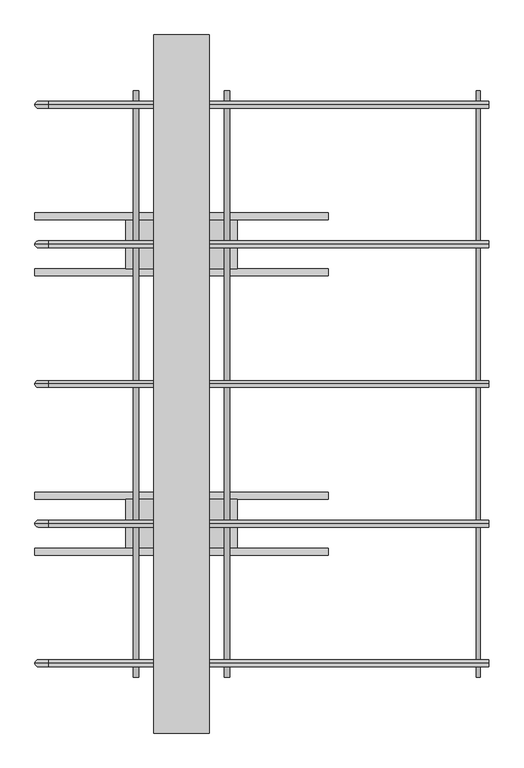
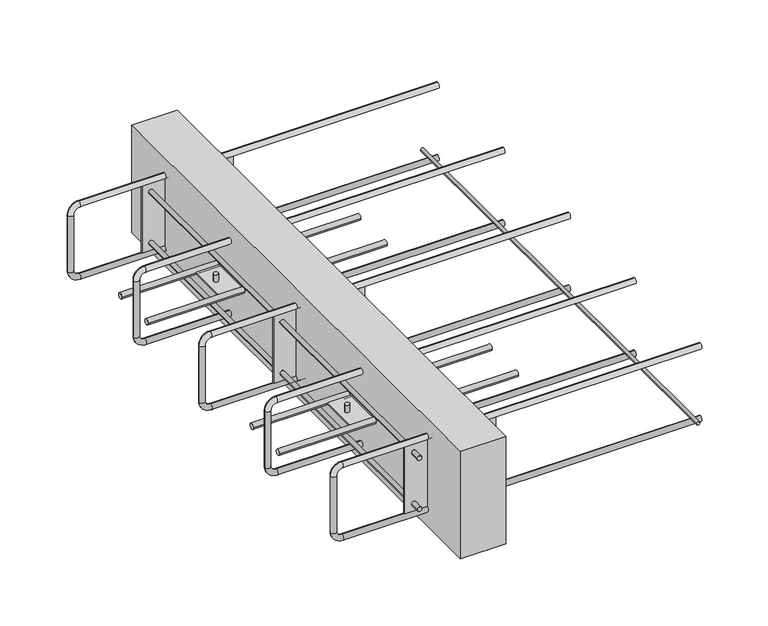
"""IFC4 building model written with IfcOpenShell, lengths in millimetres: fastener geometry, ACINOXplus_Typenreihe_Ux-Ox : UB+ S2."""

from ifc_helpers import new_model, si_unit, point, frame, frame_2d, origin, place, context, project, spatial, polyline, circle_curve, ellipse_curve, trimmed, segment, composite_curve, outline, extrude, source, transform, mapped, element, save
from ifc_brep_helpers import plane_surface, cylinder_surface, revolved_surface, advanced_brep


def fastener_1d2c38fd(model_context):
    return source(origin(), model_context, "Body", "SolidModel", [
        extrude(outline(composite_curve([segment(trimmed(circle_curve(frame_2d((-159.5, 425.0)), 3.0), [point((-159.5, 428.0))], [point((-159.5, 422.0))], False, "CARTESIAN"), True, "CONTINUOUS"), segment(trimmed(circle_curve(frame_2d((-159.5, 425.0)), 3.0), [point((-159.5, 422.0))], [point((-159.5, 428.0))], False, "CARTESIAN"), True, "CONTINUOUS")], self_intersect=False)), frame((0.0, -420.0, 0.0), z_axis=(0.0, 1.0, 0.0), x_axis=(0.0, 0.0, 1.0)), (0.0, 0.0, 1.0), 840.0),
        extrude(outline(composite_curve([segment(trimmed(circle_curve(frame_2d((-240.0, -100.0)), 5.0), [point((-245.0, -100.0))], [point((-235.0, -100.0))], False, "CARTESIAN"), True, "CONTINUOUS"), segment(trimmed(circle_curve(frame_2d((-240.0, -100.0)), 5.0), [point((-235.0, -100.0))], [point((-245.0, -100.0))], False, "CARTESIAN"), True, "CONTINUOUS")], self_intersect=False)), frame((-210.0, 0.0, 0.0), z_axis=(1.0, 0.0, 0.0), x_axis=(0.0, 1.0, 0.0)), (0.0, 0.0, 1.0), 420.0),
        extrude(outline(composite_curve([segment(trimmed(circle_curve(frame_2d((-160.0, -100.0)), 5.0), [point((-165.0, -100.0))], [point((-155.0, -100.0))], False, "CARTESIAN"), True, "CONTINUOUS"), segment(trimmed(circle_curve(frame_2d((-160.0, -100.0)), 5.0), [point((-155.0, -100.0))], [point((-165.0, -100.0))], False, "CARTESIAN"), True, "CONTINUOUS")], self_intersect=False)), frame((-210.0, 0.0, 0.0), z_axis=(1.0, 0.0, 0.0), x_axis=(0.0, 1.0, 0.0)), (0.0, 0.0, 1.0), 420.0),
        extrude(outline(composite_curve([segment(trimmed(circle_curve(frame_2d((-65.0, -200.0)), 4.0), [point((-61.0, -200.0))], [point((-69.0, -200.0))], False, "CARTESIAN"), True, "CONTINUOUS"), segment(trimmed(circle_curve(frame_2d((-65.0, -200.0)), 4.0), [point((-69.0, -200.0))], [point((-61.0, -200.0))], False, "CARTESIAN"), True, "CONTINUOUS")], self_intersect=False)), frame((0.0, 0.0, -98.5), z_axis=(0.0, 0.0, 1.0), x_axis=(1.0, 0.0, 0.0)), (0.0, 0.0, 1.0), 13.5),
        extrude(outline(composite_curve([segment(trimmed(circle_curve(frame_2d((65.0, -200.0)), 4.0), [point((69.0, -200.0))], [point((61.0, -200.0))], False, "CARTESIAN"), True, "CONTINUOUS"), segment(trimmed(circle_curve(frame_2d((65.0, -200.0)), 4.0), [point((61.0, -200.0))], [point((69.0, -200.0))], False, "CARTESIAN"), True, "CONTINUOUS")], self_intersect=False)), frame((0.0, 0.0, -98.5), z_axis=(0.0, 0.0, 1.0), x_axis=(1.0, 0.0, 0.0)), (0.0, 0.0, 1.0), 13.5),
        extrude(outline(composite_curve([segment(trimmed(circle_curve(frame_2d((-65.0, -200.0)), 4.0), [point((-69.0, -200.0))], [point((-61.0, -200.0))], False, "CARTESIAN"), True, "CONTINUOUS"), segment(trimmed(circle_curve(frame_2d((-65.0, -200.0)), 4.0), [point((-61.0, -200.0))], [point((-69.0, -200.0))], False, "CARTESIAN"), True, "CONTINUOUS")], self_intersect=False)), frame((0.0, 0.0, -115.0), z_axis=(0.0, 0.0, 1.0), x_axis=(1.0, 0.0, 0.0)), (0.0, 0.0, 1.0), 13.5),
        extrude(outline(composite_curve([segment(trimmed(circle_curve(frame_2d((65.0, -200.0)), 4.0), [point((61.0, -200.0))], [point((69.0, -200.0))], False, "CARTESIAN"), True, "CONTINUOUS"), segment(trimmed(circle_curve(frame_2d((65.0, -200.0)), 4.0), [point((69.0, -200.0))], [point((61.0, -200.0))], False, "CARTESIAN"), True, "CONTINUOUS")], self_intersect=False)), frame((0.0, 0.0, -115.0), z_axis=(0.0, 0.0, 1.0), x_axis=(1.0, 0.0, 0.0)), (0.0, 0.0, 1.0), 13.5),
        extrude(outline(polyline([(80.0, -165.0), (80.0, -235.0), (-80.0, -235.0), (-80.0, -165.0), (80.0, -165.0)])), frame((0.0, 0.0, -101.5), z_axis=(0.0, 0.0, 1.0), x_axis=(1.0, 0.0, 0.0)), (0.0, 0.0, 1.0), 3.0),
        extrude(outline(composite_curve([segment(trimmed(circle_curve(frame_2d((160.0, -100.0)), 5.0), [point((155.0, -100.0))], [point((165.0, -100.0))], False, "CARTESIAN"), True, "CONTINUOUS"), segment(trimmed(circle_curve(frame_2d((160.0, -100.0)), 5.0), [point((165.0, -100.0))], [point((155.0, -100.0))], False, "CARTESIAN"), True, "CONTINUOUS")], self_intersect=False)), frame((-210.0, 0.0, 0.0), z_axis=(1.0, 0.0, 0.0), x_axis=(0.0, 1.0, 0.0)), (0.0, 0.0, 1.0), 420.0),
        extrude(outline(composite_curve([segment(trimmed(circle_curve(frame_2d((240.0, -100.0)), 5.0), [point((235.0, -100.0))], [point((245.0, -100.0))], False, "CARTESIAN"), True, "CONTINUOUS"), segment(trimmed(circle_curve(frame_2d((240.0, -100.0)), 5.0), [point((245.0, -100.0))], [point((235.0, -100.0))], False, "CARTESIAN"), True, "CONTINUOUS")], self_intersect=False)), frame((-210.0, 0.0, 0.0), z_axis=(1.0, 0.0, 0.0), x_axis=(0.0, 1.0, 0.0)), (0.0, 0.0, 1.0), 420.0),
        extrude(outline(composite_curve([segment(trimmed(circle_curve(frame_2d((-65.0, 200.0)), 4.0), [point((-61.0, 200.0))], [point((-69.0, 200.0))], False, "CARTESIAN"), True, "CONTINUOUS"), segment(trimmed(circle_curve(frame_2d((-65.0, 200.0)), 4.0), [point((-69.0, 200.0))], [point((-61.0, 200.0))], False, "CARTESIAN"), True, "CONTINUOUS")], self_intersect=False)), frame((0.0, 0.0, -98.5), z_axis=(0.0, 0.0, 1.0), x_axis=(1.0, 0.0, 0.0)), (0.0, 0.0, 1.0), 13.5),
        extrude(outline(composite_curve([segment(trimmed(circle_curve(frame_2d((65.0, 200.0)), 4.0), [point((69.0, 200.0))], [point((61.0, 200.0))], False, "CARTESIAN"), True, "CONTINUOUS"), segment(trimmed(circle_curve(frame_2d((65.0, 200.0)), 4.0), [point((61.0, 200.0))], [point((69.0, 200.0))], False, "CARTESIAN"), True, "CONTINUOUS")], self_intersect=False)), frame((0.0, 0.0, -98.5), z_axis=(0.0, 0.0, 1.0), x_axis=(1.0, 0.0, 0.0)), (0.0, 0.0, 1.0), 13.5),
        extrude(outline(composite_curve([segment(trimmed(circle_curve(frame_2d((-65.0, 200.0)), 4.0), [point((-69.0, 200.0))], [point((-61.0, 200.0))], False, "CARTESIAN"), True, "CONTINUOUS"), segment(trimmed(circle_curve(frame_2d((-65.0, 200.0)), 4.0), [point((-61.0, 200.0))], [point((-69.0, 200.0))], False, "CARTESIAN"), True, "CONTINUOUS")], self_intersect=False)), frame((0.0, 0.0, -115.0), z_axis=(0.0, 0.0, 1.0), x_axis=(1.0, 0.0, 0.0)), (0.0, 0.0, 1.0), 13.5),
        extrude(outline(composite_curve([segment(trimmed(circle_curve(frame_2d((65.0, 200.0)), 4.0), [point((61.0, 200.0))], [point((69.0, 200.0))], False, "CARTESIAN"), True, "CONTINUOUS"), segment(trimmed(circle_curve(frame_2d((65.0, 200.0)), 4.0), [point((69.0, 200.0))], [point((61.0, 200.0))], False, "CARTESIAN"), True, "CONTINUOUS")], self_intersect=False)), frame((0.0, 0.0, -115.0), z_axis=(0.0, 0.0, 1.0), x_axis=(1.0, 0.0, 0.0)), (0.0, 0.0, 1.0), 13.5),
        extrude(outline(polyline([(80.0, 235.0), (80.0, 165.0), (-80.0, 165.0), (-80.0, 235.0), (80.0, 235.0)])), frame((0.0, 0.0, -101.5), z_axis=(0.0, 0.0, 1.0), x_axis=(1.0, 0.0, 0.0)), (0.0, 0.0, 1.0), 3.0),
        extrude(outline(polyline([(40.0, 500.0), (40.0, -500.0), (-40.0, -500.0), (-40.0, 500.0), (40.0, 500.0)])), frame((0.0, 0.0, -200.0), z_axis=(0.0, 0.0, 1.0), x_axis=(1.0, 0.0, 0.0)), (0.0, 0.0, 1.0), 200.0),
        extrude(outline(polyline([(80.0, 1.5), (80.0, -1.5), (-80.0, -1.5), (-80.0, 1.5), (80.0, 1.5)])), frame((0.0, 0.0, -162.5), z_axis=(0.0, 0.0, 1.0), x_axis=(1.0, 0.0, 0.0)), (0.0, 0.0, 1.0), 125.0),
        extrude(outline(polyline([(80.0, -398.5), (80.0, -401.5), (-80.0, -401.5), (-80.0, -398.5), (80.0, -398.5)])), frame((0.0, 0.0, -162.5), z_axis=(0.0, 0.0, 1.0), x_axis=(1.0, 0.0, 0.0)), (0.0, 0.0, 1.0), 125.0),
        extrude(outline(polyline([(80.0, 401.5), (80.0, 398.5), (-80.0, 398.5), (-80.0, 401.5), (80.0, 401.5)])), frame((0.0, 0.0, -162.5), z_axis=(0.0, 0.0, 1.0), x_axis=(1.0, 0.0, 0.0)), (0.0, 0.0, 1.0), 125.0),
        extrude(outline(composite_curve([segment(trimmed(circle_curve(frame_2d((-147.5, -65.0)), 4.0), [point((-147.5, -61.0))], [point((-147.5, -69.0))], False, "CARTESIAN"), True, "CONTINUOUS"), segment(trimmed(circle_curve(frame_2d((-147.5, -65.0)), 4.0), [point((-147.5, -69.0))], [point((-147.5, -61.0))], False, "CARTESIAN"), True, "CONTINUOUS")], self_intersect=False)), frame((0.0, -420.0, 0.0), z_axis=(0.0, 1.0, 0.0), x_axis=(0.0, 0.0, 1.0)), (0.0, 0.0, 1.0), 18.5),
        extrude(outline(composite_curve([segment(trimmed(circle_curve(frame_2d((-147.5, -65.0)), 4.0), [point((-147.5, -69.0))], [point((-147.5, -61.0))], False, "CARTESIAN"), True, "CONTINUOUS"), segment(trimmed(circle_curve(frame_2d((-147.5, -65.0)), 4.0), [point((-147.5, -61.0))], [point((-147.5, -69.0))], False, "CARTESIAN"), True, "CONTINUOUS")], self_intersect=False)), frame((0.0, -398.5, 0.0), z_axis=(0.0, 1.0, 0.0), x_axis=(0.0, 0.0, 1.0)), (0.0, 0.0, 1.0), 397.0),
        extrude(outline(composite_curve([segment(trimmed(circle_curve(frame_2d((-147.5, -65.0)), 4.0), [point((-147.5, -69.0))], [point((-147.5, -61.0))], False, "CARTESIAN"), True, "CONTINUOUS"), segment(trimmed(circle_curve(frame_2d((-147.5, -65.0)), 4.0), [point((-147.5, -61.0))], [point((-147.5, -69.0))], False, "CARTESIAN"), True, "CONTINUOUS")], self_intersect=False)), frame((0.0, 401.5, 0.0), z_axis=(0.0, 1.0, 0.0), x_axis=(0.0, 0.0, 1.0)), (0.0, 0.0, 1.0), 18.5),
        extrude(outline(composite_curve([segment(trimmed(circle_curve(frame_2d((-147.5, -65.0)), 4.0), [point((-147.5, -69.0))], [point((-147.5, -61.0))], False, "CARTESIAN"), True, "CONTINUOUS"), segment(trimmed(circle_curve(frame_2d((-147.5, -65.0)), 4.0), [point((-147.5, -61.0))], [point((-147.5, -69.0))], False, "CARTESIAN"), True, "CONTINUOUS")], self_intersect=False)), frame((0.0, 1.5, 0.0), z_axis=(0.0, 1.0, 0.0), x_axis=(0.0, 0.0, 1.0)), (0.0, 0.0, 1.0), 397.0),
        extrude(outline(composite_curve([segment(trimmed(circle_curve(frame_2d((-147.5, 65.0)), 4.0), [point((-147.5, 69.0))], [point((-147.5, 61.0))], False, "CARTESIAN"), True, "CONTINUOUS"), segment(trimmed(circle_curve(frame_2d((-147.5, 65.0)), 4.0), [point((-147.5, 61.0))], [point((-147.5, 69.0))], False, "CARTESIAN"), True, "CONTINUOUS")], self_intersect=False)), frame((0.0, -420.0, 0.0), z_axis=(0.0, 1.0, 0.0), x_axis=(0.0, 0.0, 1.0)), (0.0, 0.0, 1.0), 18.5),
        extrude(outline(composite_curve([segment(trimmed(circle_curve(frame_2d((-147.5, 65.0)), 4.0), [point((-147.5, 61.0))], [point((-147.5, 69.0))], False, "CARTESIAN"), True, "CONTINUOUS"), segment(trimmed(circle_curve(frame_2d((-147.5, 65.0)), 4.0), [point((-147.5, 69.0))], [point((-147.5, 61.0))], False, "CARTESIAN"), True, "CONTINUOUS")], self_intersect=False)), frame((0.0, -398.5, 0.0), z_axis=(0.0, 1.0, 0.0), x_axis=(0.0, 0.0, 1.0)), (0.0, 0.0, 1.0), 397.0),
        extrude(outline(composite_curve([segment(trimmed(circle_curve(frame_2d((-147.5, 65.0)), 4.0), [point((-147.5, 61.0))], [point((-147.5, 69.0))], False, "CARTESIAN"), True, "CONTINUOUS"), segment(trimmed(circle_curve(frame_2d((-147.5, 65.0)), 4.0), [point((-147.5, 69.0))], [point((-147.5, 61.0))], False, "CARTESIAN"), True, "CONTINUOUS")], self_intersect=False)), frame((0.0, 401.5, 0.0), z_axis=(0.0, 1.0, 0.0), x_axis=(0.0, 0.0, 1.0)), (0.0, 0.0, 1.0), 18.5),
        extrude(outline(composite_curve([segment(trimmed(circle_curve(frame_2d((-147.5, 65.0)), 4.0), [point((-147.5, 61.0))], [point((-147.5, 69.0))], False, "CARTESIAN"), True, "CONTINUOUS"), segment(trimmed(circle_curve(frame_2d((-147.5, 65.0)), 4.0), [point((-147.5, 69.0))], [point((-147.5, 61.0))], False, "CARTESIAN"), True, "CONTINUOUS")], self_intersect=False)), frame((0.0, 1.5, 0.0), z_axis=(0.0, 1.0, 0.0), x_axis=(0.0, 0.0, 1.0)), (0.0, 0.0, 1.0), 397.0),
        extrude(outline(composite_curve([segment(trimmed(circle_curve(frame_2d((-52.5, -65.0)), 4.0), [point((-52.5, -69.0))], [point((-52.5, -61.0))], False, "CARTESIAN"), True, "CONTINUOUS"), segment(trimmed(circle_curve(frame_2d((-52.5, -65.0)), 4.0), [point((-52.5, -61.0))], [point((-52.5, -69.0))], False, "CARTESIAN"), True, "CONTINUOUS")], self_intersect=False)), frame((0.0, 401.5, 0.0), z_axis=(0.0, 1.0, 0.0), x_axis=(0.0, 0.0, 1.0)), (0.0, 0.0, 1.0), 18.5),
        extrude(outline(composite_curve([segment(trimmed(circle_curve(frame_2d((-52.5, -65.0)), 4.0), [point((-52.5, -61.0))], [point((-52.5, -69.0))], False, "CARTESIAN"), True, "CONTINUOUS"), segment(trimmed(circle_curve(frame_2d((-52.5, -65.0)), 4.0), [point((-52.5, -69.0))], [point((-52.5, -61.0))], False, "CARTESIAN"), True, "CONTINUOUS")], self_intersect=False)), frame((0.0, -420.0, 0.0), z_axis=(0.0, 1.0, 0.0), x_axis=(0.0, 0.0, 1.0)), (0.0, 0.0, 1.0), 18.5),
        extrude(outline(composite_curve([segment(trimmed(circle_curve(frame_2d((-52.5, -65.0)), 4.0), [point((-52.5, -69.0))], [point((-52.5, -61.0))], False, "CARTESIAN"), True, "CONTINUOUS"), segment(trimmed(circle_curve(frame_2d((-52.5, -65.0)), 4.0), [point((-52.5, -61.0))], [point((-52.5, -69.0))], False, "CARTESIAN"), True, "CONTINUOUS")], self_intersect=False)), frame((0.0, -398.5, 0.0), z_axis=(0.0, 1.0, 0.0), x_axis=(0.0, 0.0, 1.0)), (0.0, 0.0, 1.0), 397.0),
        extrude(outline(composite_curve([segment(trimmed(circle_curve(frame_2d((-52.5, -65.0)), 4.0), [point((-52.5, -69.0))], [point((-52.5, -61.0))], False, "CARTESIAN"), True, "CONTINUOUS"), segment(trimmed(circle_curve(frame_2d((-52.5, -65.0)), 4.0), [point((-52.5, -61.0))], [point((-52.5, -69.0))], False, "CARTESIAN"), True, "CONTINUOUS")], self_intersect=False)), frame((0.0, 1.5, 0.0), z_axis=(0.0, 1.0, 0.0), x_axis=(0.0, 0.0, 1.0)), (0.0, 0.0, 1.0), 397.0),
        extrude(outline(composite_curve([segment(trimmed(circle_curve(frame_2d((-52.5, 65.0)), 4.0), [point((-52.5, 61.0))], [point((-52.5, 69.0))], False, "CARTESIAN"), True, "CONTINUOUS"), segment(trimmed(circle_curve(frame_2d((-52.5, 65.0)), 4.0), [point((-52.5, 69.0))], [point((-52.5, 61.0))], False, "CARTESIAN"), True, "CONTINUOUS")], self_intersect=False)), frame((0.0, 401.5, 0.0), z_axis=(0.0, 1.0, 0.0), x_axis=(0.0, 0.0, 1.0)), (0.0, 0.0, 1.0), 18.5),
        extrude(outline(composite_curve([segment(trimmed(circle_curve(frame_2d((-52.5, 65.0)), 4.0), [point((-52.5, 69.0))], [point((-52.5, 61.0))], False, "CARTESIAN"), True, "CONTINUOUS"), segment(trimmed(circle_curve(frame_2d((-52.5, 65.0)), 4.0), [point((-52.5, 61.0))], [point((-52.5, 69.0))], False, "CARTESIAN"), True, "CONTINUOUS")], self_intersect=False)), frame((0.0, -420.0, 0.0), z_axis=(0.0, 1.0, 0.0), x_axis=(0.0, 0.0, 1.0)), (0.0, 0.0, 1.0), 18.5),
        extrude(outline(composite_curve([segment(trimmed(circle_curve(frame_2d((-52.5, 65.0)), 4.0), [point((-52.5, 61.0))], [point((-52.5, 69.0))], False, "CARTESIAN"), True, "CONTINUOUS"), segment(trimmed(circle_curve(frame_2d((-52.5, 65.0)), 4.0), [point((-52.5, 69.0))], [point((-52.5, 61.0))], False, "CARTESIAN"), True, "CONTINUOUS")], self_intersect=False)), frame((0.0, -398.5, 0.0), z_axis=(0.0, 1.0, 0.0), x_axis=(0.0, 0.0, 1.0)), (0.0, 0.0, 1.0), 397.0),
        extrude(outline(composite_curve([segment(trimmed(circle_curve(frame_2d((-52.5, 65.0)), 4.0), [point((-52.5, 61.0))], [point((-52.5, 69.0))], False, "CARTESIAN"), True, "CONTINUOUS"), segment(trimmed(circle_curve(frame_2d((-52.5, 65.0)), 4.0), [point((-52.5, 69.0))], [point((-52.5, 61.0))], False, "CARTESIAN"), True, "CONTINUOUS")], self_intersect=False)), frame((0.0, 1.5, 0.0), z_axis=(0.0, 1.0, 0.0), x_axis=(0.0, 0.0, 1.0)), (0.0, 0.0, 1.0), 397.0),
        advanced_brep(
        [(440.0, 200.0, -27.5), (440.0, 200.0, -37.5), (-190.0, 200.0, -27.5), (-190.0, 200.0, -37.5), (-200.0, 200.0, -47.5), (-210.0, 200.0, -47.5), (-210.0, 200.0, -152.5), (-200.0, 200.0, -152.5), (-190.0, 200.0, -162.5), (-190.0, 200.0, -172.5), (440.0, 200.0, -172.5), (440.0, 200.0, -162.5)],
        [
            (0, 1, circle_curve(frame((440.0, 200.0, -32.5), z_axis=(1.0, 0.0, 0.0), x_axis=(0.0, 0.0, -1.0)), 5.0)),
            (1, 0, circle_curve(frame((440.0, 200.0, -32.5), z_axis=(1.0, 0.0, 0.0), x_axis=(0.0, 0.0, -1.0)), 5.0)),
            (0, 2),
            (2, 3, circle_curve(frame((-190.0, 200.0, -32.5), z_axis=(1.0, 0.0, 0.0), x_axis=(0.0, 0.0, -1.0)), 5.0)),
            (3, 1),
            (3, 2, circle_curve(frame((-190.0, 200.0, -32.5), z_axis=(1.0, 0.0, 0.0), x_axis=(0.0, 0.0, -1.0)), 5.0)),
            (4, 3, circle_curve(frame((-190.0, 200.0, -47.5), z_axis=(0.0, 1.0, 0.0), x_axis=(0.0, 0.0, 1.0)), 10.0)),
            (2, 5, circle_curve(frame((-190.0, 200.0, -47.5), z_axis=(0.0, -1.0, 0.0), x_axis=(0.0, 0.0, 1.0)), 20.0)),
            (5, 4, circle_curve(frame((-205.0, 200.0, -47.5), z_axis=(0.0, 0.0, 1.0), x_axis=(1.0, 0.0, 0.0)), 5.0)),
            (4, 5, circle_curve(frame((-205.0, 200.0, -47.5), z_axis=(0.0, 0.0, 1.0), x_axis=(1.0, 0.0, 0.0)), 5.0)),
            (5, 6),
            (6, 7, circle_curve(frame((-205.0, 200.0, -152.5), z_axis=(0.0, 0.0, 1.0), x_axis=(1.0, 0.0, 0.0)), 5.0)),
            (7, 4),
            (7, 6, circle_curve(frame((-205.0, 200.0, -152.5), z_axis=(0.0, 0.0, 1.0), x_axis=(1.0, 0.0, 0.0)), 5.0)),
            (8, 7, circle_curve(frame((-190.0, 200.0, -152.5), z_axis=(0.0, 1.0, 0.0), x_axis=(-1.0, 0.0, 0.0)), 10.0)),
            (6, 9, circle_curve(frame((-190.0, 200.0, -152.5), z_axis=(0.0, -1.0, 0.0), x_axis=(-1.0, 0.0, 0.0)), 20.0)),
            (9, 8, circle_curve(frame((-190.0, 200.0, -167.5), z_axis=(-1.0, 0.0, 0.0), x_axis=(0.0, 0.0, 1.0)), 5.0)),
            (8, 9, circle_curve(frame((-190.0, 200.0, -167.5), z_axis=(-1.0, 0.0, 0.0), x_axis=(0.0, 0.0, 1.0)), 5.0)),
            (10, 11, circle_curve(frame((440.0, 200.0, -167.5), z_axis=(1.0, 0.0, 0.0), x_axis=(0.0, 0.0, 1.0)), 5.0)),
            (11, 10, circle_curve(frame((440.0, 200.0, -167.5), z_axis=(1.0, 0.0, 0.0), x_axis=(0.0, 0.0, 1.0)), 5.0)),
            (9, 10),
            (11, 8),
        ],
        [
            plane_surface(frame((440.0, 200.0, -32.5), z_axis=(1.0, 0.0, 0.0), x_axis=(0.0, -1.0, 0.0))),
            cylinder_surface(frame((440.0, 200.0, -32.5), z_axis=(1.0, 0.0, 0.0), x_axis=(0.0, 0.0, -1.0)), 5.0),
            revolved_surface(trimmed(ellipse_curve(frame((-190.0, 200.0, -32.5), z_axis=(1.0, 0.0, 0.0), x_axis=(0.0, 0.0, -1.0)), 5.0, 5.0), [point((-190.0, 200.0, -27.5))], [point((-190.0, 200.0, -37.5))], True, "CARTESIAN"), (-190.0, 200.0, -47.5), (0.0, -1.0, 0.0)),
            revolved_surface(trimmed(ellipse_curve(frame((-190.0, 200.0, -32.5), z_axis=(1.0, 0.0, 0.0), x_axis=(0.0, 0.0, -1.0)), 5.0, 5.0), [point((-190.0, 200.0, -37.5))], [point((-190.0, 200.0, -27.5))], True, "CARTESIAN"), (-190.0, 200.0, -47.5), (0.0, -1.0, 0.0)),
            cylinder_surface(frame((-205.0, 200.0, -47.5), z_axis=(0.0, 0.0, 1.0), x_axis=(1.0, 0.0, 0.0)), 5.0),
            revolved_surface(trimmed(ellipse_curve(frame((-205.0, 200.0, -152.5), z_axis=(0.0, 0.0, 1.0), x_axis=(1.0, 0.0, 0.0)), 5.0, 5.0), [point((-210.0, 200.0, -152.5))], [point((-200.0, 200.0, -152.5))], True, "CARTESIAN"), (-190.0, 200.0, -152.5), (0.0, -1.0, 0.0)),
            revolved_surface(trimmed(ellipse_curve(frame((-205.0, 200.0, -152.5), z_axis=(0.0, 0.0, 1.0), x_axis=(1.0, 0.0, 0.0)), 5.0, 5.0), [point((-200.0, 200.0, -152.5))], [point((-210.0, 200.0, -152.5))], True, "CARTESIAN"), (-190.0, 200.0, -152.5), (0.0, -1.0, 0.0)),
            plane_surface(frame((440.0, 200.0, -167.5), z_axis=(1.0, 0.0, 0.0), x_axis=(0.0, -1.0, 0.0))),
            cylinder_surface(frame((-190.0, 200.0, -167.5), z_axis=(-1.0, 0.0, 0.0), x_axis=(0.0, 0.0, 1.0)), 5.0),
        ],
        [
            (0, [[1, 2]]),
            (1, [[-1, 3, 4, 5]]),
            (1, [[-2, -5, 6, -3]]),
            (2, [[7, -4, 8, 9]]),
            (3, [[-8, -6, -7, 10]]),
            (4, [[-9, 11, 12, 13]]),
            (4, [[-10, -13, 14, -11]]),
            (5, [[15, -12, 16, 17]]),
            (6, [[-16, -14, -15, 18]]),
            (7, [[19, 20]]),
            (8, [[-17, 21, -20, 22]]),
            (8, [[-18, -22, -19, -21]]),
        ],
    ),
        advanced_brep(
        [(440.0, 0.0, -27.5), (440.0, 0.0, -37.5), (-190.0, 0.0, -27.5), (-190.0, 0.0, -37.5), (-200.0, 0.0, -47.5), (-210.0, 0.0, -47.5), (-210.0, 0.0, -152.5), (-200.0, 0.0, -152.5), (-190.0, 0.0, -162.5), (-190.0, 0.0, -172.5), (440.0, 0.0, -172.5), (440.0, 0.0, -162.5)],
        [
            (0, 1, circle_curve(frame((440.0, 0.0, -32.5), z_axis=(1.0, 0.0, 0.0), x_axis=(0.0, 0.0, -1.0)), 5.0)),
            (1, 0, circle_curve(frame((440.0, 0.0, -32.5), z_axis=(1.0, 0.0, 0.0), x_axis=(0.0, 0.0, -1.0)), 5.0)),
            (0, 2),
            (2, 3, circle_curve(frame((-190.0, 0.0, -32.5), z_axis=(1.0, 0.0, 0.0), x_axis=(0.0, 0.0, -1.0)), 5.0)),
            (3, 1),
            (3, 2, circle_curve(frame((-190.0, 0.0, -32.5), z_axis=(1.0, 0.0, 0.0), x_axis=(0.0, 0.0, -1.0)), 5.0)),
            (4, 3, circle_curve(frame((-190.0, 0.0, -47.5), z_axis=(0.0, 1.0, 0.0), x_axis=(0.0, 0.0, 1.0)), 10.0)),
            (2, 5, circle_curve(frame((-190.0, 0.0, -47.5), z_axis=(0.0, -1.0, 0.0), x_axis=(0.0, 0.0, 1.0)), 20.0)),
            (5, 4, circle_curve(frame((-205.0, 0.0, -47.5), z_axis=(0.0, 0.0, 1.0), x_axis=(1.0, 0.0, 0.0)), 5.0)),
            (4, 5, circle_curve(frame((-205.0, 0.0, -47.5), z_axis=(0.0, 0.0, 1.0), x_axis=(1.0, 0.0, 0.0)), 5.0)),
            (5, 6),
            (6, 7, circle_curve(frame((-205.0, 0.0, -152.5), z_axis=(0.0, 0.0, 1.0), x_axis=(1.0, 0.0, 0.0)), 5.0)),
            (7, 4),
            (7, 6, circle_curve(frame((-205.0, 0.0, -152.5), z_axis=(0.0, 0.0, 1.0), x_axis=(1.0, 0.0, 0.0)), 5.0)),
            (8, 7, circle_curve(frame((-190.0, 0.0, -152.5), z_axis=(0.0, 1.0, 0.0), x_axis=(-1.0, 0.0, 0.0)), 10.0)),
            (6, 9, circle_curve(frame((-190.0, 0.0, -152.5), z_axis=(0.0, -1.0, 0.0), x_axis=(-1.0, 0.0, 0.0)), 20.0)),
            (9, 8, circle_curve(frame((-190.0, 0.0, -167.5), z_axis=(-1.0, 0.0, 0.0), x_axis=(0.0, 0.0, 1.0)), 5.0)),
            (8, 9, circle_curve(frame((-190.0, 0.0, -167.5), z_axis=(-1.0, 0.0, 0.0), x_axis=(0.0, 0.0, 1.0)), 5.0)),
            (10, 11, circle_curve(frame((440.0, 0.0, -167.5), z_axis=(1.0, 0.0, 0.0), x_axis=(0.0, 0.0, 1.0)), 5.0)),
            (11, 10, circle_curve(frame((440.0, 0.0, -167.5), z_axis=(1.0, 0.0, 0.0), x_axis=(0.0, 0.0, 1.0)), 5.0)),
            (9, 10),
            (11, 8),
        ],
        [
            plane_surface(frame((440.0, 0.0, -32.5), z_axis=(1.0, 0.0, 0.0), x_axis=(0.0, -1.0, 0.0))),
            cylinder_surface(frame((440.0, 0.0, -32.5), z_axis=(1.0, 0.0, 0.0), x_axis=(0.0, 0.0, -1.0)), 5.0),
            revolved_surface(trimmed(ellipse_curve(frame((-190.0, 0.0, -32.5), z_axis=(1.0, 0.0, 0.0), x_axis=(0.0, 0.0, -1.0)), 5.0, 5.0), [point((-190.0, 0.0, -27.5))], [point((-190.0, 0.0, -37.5))], True, "CARTESIAN"), (-190.0, 0.0, -47.5), (0.0, -1.0, 0.0)),
            revolved_surface(trimmed(ellipse_curve(frame((-190.0, 0.0, -32.5), z_axis=(1.0, 0.0, 0.0), x_axis=(0.0, 0.0, -1.0)), 5.0, 5.0), [point((-190.0, 0.0, -37.5))], [point((-190.0, 0.0, -27.5))], True, "CARTESIAN"), (-190.0, 0.0, -47.5), (0.0, -1.0, 0.0)),
            cylinder_surface(frame((-205.0, 0.0, -47.5), z_axis=(0.0, 0.0, 1.0), x_axis=(1.0, 0.0, 0.0)), 5.0),
            revolved_surface(trimmed(ellipse_curve(frame((-205.0, 0.0, -152.5), z_axis=(0.0, 0.0, 1.0), x_axis=(1.0, 0.0, 0.0)), 5.0, 5.0), [point((-210.0, 0.0, -152.5))], [point((-200.0, 0.0, -152.5))], True, "CARTESIAN"), (-190.0, 0.0, -152.5), (0.0, -1.0, 0.0)),
            revolved_surface(trimmed(ellipse_curve(frame((-205.0, 0.0, -152.5), z_axis=(0.0, 0.0, 1.0), x_axis=(1.0, 0.0, 0.0)), 5.0, 5.0), [point((-200.0, 0.0, -152.5))], [point((-210.0, 0.0, -152.5))], True, "CARTESIAN"), (-190.0, 0.0, -152.5), (0.0, -1.0, 0.0)),
            plane_surface(frame((440.0, 0.0, -167.5), z_axis=(1.0, 0.0, 0.0), x_axis=(0.0, -1.0, 0.0))),
            cylinder_surface(frame((-190.0, 0.0, -167.5), z_axis=(-1.0, 0.0, 0.0), x_axis=(0.0, 0.0, 1.0)), 5.0),
        ],
        [
            (0, [[1, 2]]),
            (1, [[-1, 3, 4, 5]]),
            (1, [[-2, -5, 6, -3]]),
            (2, [[7, -4, 8, 9]]),
            (3, [[-8, -6, -7, 10]]),
            (4, [[-9, 11, 12, 13]]),
            (4, [[-10, -13, 14, -11]]),
            (5, [[15, -12, 16, 17]]),
            (6, [[-16, -14, -15, 18]]),
            (7, [[19, 20]]),
            (8, [[-17, 21, -20, 22]]),
            (8, [[-18, -22, -19, -21]]),
        ],
    ),
        advanced_brep(
        [(440.0, -200.0, -27.5), (440.0, -200.0, -37.5), (-190.0, -200.0, -27.5), (-190.0, -200.0, -37.5), (-200.0, -200.0, -47.5), (-210.0, -200.0, -47.5), (-210.0, -200.0, -152.5), (-200.0, -200.0, -152.5), (-190.0, -200.0, -162.5), (-190.0, -200.0, -172.5), (440.0, -200.0, -172.5), (440.0, -200.0, -162.5)],
        [
            (0, 1, circle_curve(frame((440.0, -200.0, -32.5), z_axis=(1.0, 0.0, 0.0), x_axis=(0.0, 0.0, -1.0)), 5.0)),
            (1, 0, circle_curve(frame((440.0, -200.0, -32.5), z_axis=(1.0, 0.0, 0.0), x_axis=(0.0, 0.0, -1.0)), 5.0)),
            (0, 2),
            (2, 3, circle_curve(frame((-190.0, -200.0, -32.5), z_axis=(1.0, 0.0, 0.0), x_axis=(0.0, 0.0, -1.0)), 5.0)),
            (3, 1),
            (3, 2, circle_curve(frame((-190.0, -200.0, -32.5), z_axis=(1.0, 0.0, 0.0), x_axis=(0.0, 0.0, -1.0)), 5.0)),
            (4, 3, circle_curve(frame((-190.0, -200.0, -47.5), z_axis=(0.0, 1.0, 0.0), x_axis=(0.0, 0.0, 1.0)), 10.0)),
            (2, 5, circle_curve(frame((-190.0, -200.0, -47.5), z_axis=(0.0, -1.0, 0.0), x_axis=(0.0, 0.0, 1.0)), 20.0)),
            (5, 4, circle_curve(frame((-205.0, -200.0, -47.5), z_axis=(0.0, 0.0, 1.0), x_axis=(1.0, 0.0, 0.0)), 5.0)),
            (4, 5, circle_curve(frame((-205.0, -200.0, -47.5), z_axis=(0.0, 0.0, 1.0), x_axis=(1.0, 0.0, 0.0)), 5.0)),
            (5, 6),
            (6, 7, circle_curve(frame((-205.0, -200.0, -152.5), z_axis=(0.0, 0.0, 1.0), x_axis=(1.0, 0.0, 0.0)), 5.0)),
            (7, 4),
            (7, 6, circle_curve(frame((-205.0, -200.0, -152.5), z_axis=(0.0, 0.0, 1.0), x_axis=(1.0, 0.0, 0.0)), 5.0)),
            (8, 7, circle_curve(frame((-190.0, -200.0, -152.5), z_axis=(0.0, 1.0, 0.0), x_axis=(-1.0, 0.0, 0.0)), 10.0)),
            (6, 9, circle_curve(frame((-190.0, -200.0, -152.5), z_axis=(0.0, -1.0, 0.0), x_axis=(-1.0, 0.0, 0.0)), 20.0)),
            (9, 8, circle_curve(frame((-190.0, -200.0, -167.5), z_axis=(-1.0, 0.0, 0.0), x_axis=(0.0, 0.0, 1.0)), 5.0)),
            (8, 9, circle_curve(frame((-190.0, -200.0, -167.5), z_axis=(-1.0, 0.0, 0.0), x_axis=(0.0, 0.0, 1.0)), 5.0)),
            (10, 11, circle_curve(frame((440.0, -200.0, -167.5), z_axis=(1.0, 0.0, 0.0), x_axis=(0.0, 0.0, 1.0)), 5.0)),
            (11, 10, circle_curve(frame((440.0, -200.0, -167.5), z_axis=(1.0, 0.0, 0.0), x_axis=(0.0, 0.0, 1.0)), 5.0)),
            (9, 10),
            (11, 8),
        ],
        [
            plane_surface(frame((440.0, -200.0, -32.5), z_axis=(1.0, 0.0, 0.0), x_axis=(0.0, -1.0, 0.0))),
            cylinder_surface(frame((440.0, -200.0, -32.5), z_axis=(1.0, 0.0, 0.0), x_axis=(0.0, 0.0, -1.0)), 5.0),
            revolved_surface(trimmed(ellipse_curve(frame((-190.0, -200.0, -32.5), z_axis=(1.0, 0.0, 0.0), x_axis=(0.0, 0.0, -1.0)), 5.0, 5.0), [point((-190.0, -200.0, -27.5))], [point((-190.0, -200.0, -37.5))], True, "CARTESIAN"), (-190.0, -200.0, -47.5), (0.0, -1.0, 0.0)),
            revolved_surface(trimmed(ellipse_curve(frame((-190.0, -200.0, -32.5), z_axis=(1.0, 0.0, 0.0), x_axis=(0.0, 0.0, -1.0)), 5.0, 5.0), [point((-190.0, -200.0, -37.5))], [point((-190.0, -200.0, -27.5))], True, "CARTESIAN"), (-190.0, -200.0, -47.5), (0.0, -1.0, 0.0)),
            cylinder_surface(frame((-205.0, -200.0, -47.5), z_axis=(0.0, 0.0, 1.0), x_axis=(1.0, 0.0, 0.0)), 5.0),
            revolved_surface(trimmed(ellipse_curve(frame((-205.0, -200.0, -152.5), z_axis=(0.0, 0.0, 1.0), x_axis=(1.0, 0.0, 0.0)), 5.0, 5.0), [point((-210.0, -200.0, -152.5))], [point((-200.0, -200.0, -152.5))], True, "CARTESIAN"), (-190.0, -200.0, -152.5), (0.0, -1.0, 0.0)),
            revolved_surface(trimmed(ellipse_curve(frame((-205.0, -200.0, -152.5), z_axis=(0.0, 0.0, 1.0), x_axis=(1.0, 0.0, 0.0)), 5.0, 5.0), [point((-200.0, -200.0, -152.5))], [point((-210.0, -200.0, -152.5))], True, "CARTESIAN"), (-190.0, -200.0, -152.5), (0.0, -1.0, 0.0)),
            plane_surface(frame((440.0, -200.0, -167.5), z_axis=(1.0, 0.0, 0.0), x_axis=(0.0, -1.0, 0.0))),
            cylinder_surface(frame((-190.0, -200.0, -167.5), z_axis=(-1.0, 0.0, 0.0), x_axis=(0.0, 0.0, 1.0)), 5.0),
        ],
        [
            (0, [[1, 2]]),
            (1, [[-1, 3, 4, 5]]),
            (1, [[-2, -5, 6, -3]]),
            (2, [[7, -4, 8, 9]]),
            (3, [[-8, -6, -7, 10]]),
            (4, [[-9, 11, 12, 13]]),
            (4, [[-10, -13, 14, -11]]),
            (5, [[15, -12, 16, 17]]),
            (6, [[-16, -14, -15, 18]]),
            (7, [[19, 20]]),
            (8, [[-17, 21, -20, 22]]),
            (8, [[-18, -22, -19, -21]]),
        ],
    ),
        advanced_brep(
        [(440.0, 400.0, -27.5), (440.0, 400.0, -37.5), (-190.0, 400.0, -27.5), (-190.0, 400.0, -37.5), (-200.0, 400.0, -47.5), (-210.0, 400.0, -47.5), (-210.0, 400.0, -152.5), (-200.0, 400.0, -152.5), (-190.0, 400.0, -162.5), (-190.0, 400.0, -172.5), (440.0, 400.0, -172.5), (440.0, 400.0, -162.5)],
        [
            (0, 1, circle_curve(frame((440.0, 400.0, -32.5), z_axis=(1.0, 0.0, 0.0), x_axis=(0.0, 0.0, -1.0)), 5.0)),
            (1, 0, circle_curve(frame((440.0, 400.0, -32.5), z_axis=(1.0, 0.0, 0.0), x_axis=(0.0, 0.0, -1.0)), 5.0)),
            (0, 2),
            (2, 3, circle_curve(frame((-190.0, 400.0, -32.5), z_axis=(1.0, 0.0, 0.0), x_axis=(0.0, 0.0, -1.0)), 5.0)),
            (3, 1),
            (3, 2, circle_curve(frame((-190.0, 400.0, -32.5), z_axis=(1.0, 0.0, 0.0), x_axis=(0.0, 0.0, -1.0)), 5.0)),
            (4, 3, circle_curve(frame((-190.0, 400.0, -47.5), z_axis=(0.0, 1.0, 0.0), x_axis=(0.0, 0.0, 1.0)), 10.0)),
            (2, 5, circle_curve(frame((-190.0, 400.0, -47.5), z_axis=(0.0, -1.0, 0.0), x_axis=(0.0, 0.0, 1.0)), 20.0)),
            (5, 4, circle_curve(frame((-205.0, 400.0, -47.5), z_axis=(0.0, 0.0, 1.0), x_axis=(1.0, 0.0, 0.0)), 5.0)),
            (4, 5, circle_curve(frame((-205.0, 400.0, -47.5), z_axis=(0.0, 0.0, 1.0), x_axis=(1.0, 0.0, 0.0)), 5.0)),
            (5, 6),
            (6, 7, circle_curve(frame((-205.0, 400.0, -152.5), z_axis=(0.0, 0.0, 1.0), x_axis=(1.0, 0.0, 0.0)), 5.0)),
            (7, 4),
            (7, 6, circle_curve(frame((-205.0, 400.0, -152.5), z_axis=(0.0, 0.0, 1.0), x_axis=(1.0, 0.0, 0.0)), 5.0)),
            (8, 7, circle_curve(frame((-190.0, 400.0, -152.5), z_axis=(0.0, 1.0, 0.0), x_axis=(-1.0, 0.0, 0.0)), 10.0)),
            (6, 9, circle_curve(frame((-190.0, 400.0, -152.5), z_axis=(0.0, -1.0, 0.0), x_axis=(-1.0, 0.0, 0.0)), 20.0)),
            (9, 8, circle_curve(frame((-190.0, 400.0, -167.5), z_axis=(-1.0, 0.0, 0.0), x_axis=(0.0, 0.0, 1.0)), 5.0)),
            (8, 9, circle_curve(frame((-190.0, 400.0, -167.5), z_axis=(-1.0, 0.0, 0.0), x_axis=(0.0, 0.0, 1.0)), 5.0)),
            (10, 11, circle_curve(frame((440.0, 400.0, -167.5), z_axis=(1.0, 0.0, 0.0), x_axis=(0.0, 0.0, 1.0)), 5.0)),
            (11, 10, circle_curve(frame((440.0, 400.0, -167.5), z_axis=(1.0, 0.0, 0.0), x_axis=(0.0, 0.0, 1.0)), 5.0)),
            (9, 10),
            (11, 8),
        ],
        [
            plane_surface(frame((440.0, 400.0, -32.5), z_axis=(1.0, 0.0, 0.0), x_axis=(0.0, -1.0, 0.0))),
            cylinder_surface(frame((440.0, 400.0, -32.5), z_axis=(1.0, 0.0, 0.0), x_axis=(0.0, 0.0, -1.0)), 5.0),
            revolved_surface(trimmed(ellipse_curve(frame((-190.0, 400.0, -32.5), z_axis=(1.0, 0.0, 0.0), x_axis=(0.0, 0.0, -1.0)), 5.0, 5.0), [point((-190.0, 400.0, -27.5))], [point((-190.0, 400.0, -37.5))], True, "CARTESIAN"), (-190.0, 400.0, -47.5), (0.0, -1.0, 0.0)),
            revolved_surface(trimmed(ellipse_curve(frame((-190.0, 400.0, -32.5), z_axis=(1.0, 0.0, 0.0), x_axis=(0.0, 0.0, -1.0)), 5.0, 5.0), [point((-190.0, 400.0, -37.5))], [point((-190.0, 400.0, -27.5))], True, "CARTESIAN"), (-190.0, 400.0, -47.5), (0.0, -1.0, 0.0)),
            cylinder_surface(frame((-205.0, 400.0, -47.5), z_axis=(0.0, 0.0, 1.0), x_axis=(1.0, 0.0, 0.0)), 5.0),
            revolved_surface(trimmed(ellipse_curve(frame((-205.0, 400.0, -152.5), z_axis=(0.0, 0.0, 1.0), x_axis=(1.0, 0.0, 0.0)), 5.0, 5.0), [point((-210.0, 400.0, -152.5))], [point((-200.0, 400.0, -152.5))], True, "CARTESIAN"), (-190.0, 400.0, -152.5), (0.0, -1.0, 0.0)),
            revolved_surface(trimmed(ellipse_curve(frame((-205.0, 400.0, -152.5), z_axis=(0.0, 0.0, 1.0), x_axis=(1.0, 0.0, 0.0)), 5.0, 5.0), [point((-200.0, 400.0, -152.5))], [point((-210.0, 400.0, -152.5))], True, "CARTESIAN"), (-190.0, 400.0, -152.5), (0.0, -1.0, 0.0)),
            plane_surface(frame((440.0, 400.0, -167.5), z_axis=(1.0, 0.0, 0.0), x_axis=(0.0, -1.0, 0.0))),
            cylinder_surface(frame((-190.0, 400.0, -167.5), z_axis=(-1.0, 0.0, 0.0), x_axis=(0.0, 0.0, 1.0)), 5.0),
        ],
        [
            (0, [[1, 2]]),
            (1, [[-1, 3, 4, 5]]),
            (1, [[-2, -5, 6, -3]]),
            (2, [[7, -4, 8, 9]]),
            (3, [[-8, -6, -7, 10]]),
            (4, [[-9, 11, 12, 13]]),
            (4, [[-10, -13, 14, -11]]),
            (5, [[15, -12, 16, 17]]),
            (6, [[-16, -14, -15, 18]]),
            (7, [[19, 20]]),
            (8, [[-17, 21, -20, 22]]),
            (8, [[-18, -22, -19, -21]]),
        ],
    ),
        advanced_brep(
        [(440.0, -400.0, -27.5), (440.0, -400.0, -37.5), (-190.0, -400.0, -27.5), (-190.0, -400.0, -37.5), (-200.0, -400.0, -47.5), (-210.0, -400.0, -47.5), (-210.0, -400.0, -152.5), (-200.0, -400.0, -152.5), (-190.0, -400.0, -162.5), (-190.0, -400.0, -172.5), (440.0, -400.0, -172.5), (440.0, -400.0, -162.5)],
        [
            (0, 1, circle_curve(frame((440.0, -400.0, -32.5), z_axis=(1.0, 0.0, 0.0), x_axis=(0.0, 0.0, -1.0)), 5.0)),
            (1, 0, circle_curve(frame((440.0, -400.0, -32.5), z_axis=(1.0, 0.0, 0.0), x_axis=(0.0, 0.0, -1.0)), 5.0)),
            (0, 2),
            (2, 3, circle_curve(frame((-190.0, -400.0, -32.5), z_axis=(1.0, 0.0, 0.0), x_axis=(0.0, 0.0, -1.0)), 5.0)),
            (3, 1),
            (3, 2, circle_curve(frame((-190.0, -400.0, -32.5), z_axis=(1.0, 0.0, 0.0), x_axis=(0.0, 0.0, -1.0)), 5.0)),
            (4, 3, circle_curve(frame((-190.0, -400.0, -47.5), z_axis=(0.0, 1.0, 0.0), x_axis=(0.0, 0.0, 1.0)), 10.0)),
            (2, 5, circle_curve(frame((-190.0, -400.0, -47.5), z_axis=(0.0, -1.0, 0.0), x_axis=(0.0, 0.0, 1.0)), 20.0)),
            (5, 4, circle_curve(frame((-205.0, -400.0, -47.5), z_axis=(0.0, 0.0, 1.0), x_axis=(1.0, 0.0, 0.0)), 5.0)),
            (4, 5, circle_curve(frame((-205.0, -400.0, -47.5), z_axis=(0.0, 0.0, 1.0), x_axis=(1.0, 0.0, 0.0)), 5.0)),
            (5, 6),
            (6, 7, circle_curve(frame((-205.0, -400.0, -152.5), z_axis=(0.0, 0.0, 1.0), x_axis=(1.0, 0.0, 0.0)), 5.0)),
            (7, 4),
            (7, 6, circle_curve(frame((-205.0, -400.0, -152.5), z_axis=(0.0, 0.0, 1.0), x_axis=(1.0, 0.0, 0.0)), 5.0)),
            (8, 7, circle_curve(frame((-190.0, -400.0, -152.5), z_axis=(0.0, 1.0, 0.0), x_axis=(-1.0, 0.0, 0.0)), 10.0)),
            (6, 9, circle_curve(frame((-190.0, -400.0, -152.5), z_axis=(0.0, -1.0, 0.0), x_axis=(-1.0, 0.0, 0.0)), 20.0)),
            (9, 8, circle_curve(frame((-190.0, -400.0, -167.5), z_axis=(-1.0, 0.0, 0.0), x_axis=(0.0, 0.0, 1.0)), 5.0)),
            (8, 9, circle_curve(frame((-190.0, -400.0, -167.5), z_axis=(-1.0, 0.0, 0.0), x_axis=(0.0, 0.0, 1.0)), 5.0)),
            (10, 11, circle_curve(frame((440.0, -400.0, -167.5), z_axis=(1.0, 0.0, 0.0), x_axis=(0.0, 0.0, 1.0)), 5.0)),
            (11, 10, circle_curve(frame((440.0, -400.0, -167.5), z_axis=(1.0, 0.0, 0.0), x_axis=(0.0, 0.0, 1.0)), 5.0)),
            (9, 10),
            (11, 8),
        ],
        [
            plane_surface(frame((440.0, -400.0, -32.5), z_axis=(1.0, 0.0, 0.0), x_axis=(0.0, -1.0, 0.0))),
            cylinder_surface(frame((440.0, -400.0, -32.5), z_axis=(1.0, 0.0, 0.0), x_axis=(0.0, 0.0, -1.0)), 5.0),
            revolved_surface(trimmed(ellipse_curve(frame((-190.0, -400.0, -32.5), z_axis=(1.0, 0.0, 0.0), x_axis=(0.0, 0.0, -1.0)), 5.0, 5.0), [point((-190.0, -400.0, -27.5))], [point((-190.0, -400.0, -37.5))], True, "CARTESIAN"), (-190.0, -400.0, -47.5), (0.0, -1.0, 0.0)),
            revolved_surface(trimmed(ellipse_curve(frame((-190.0, -400.0, -32.5), z_axis=(1.0, 0.0, 0.0), x_axis=(0.0, 0.0, -1.0)), 5.0, 5.0), [point((-190.0, -400.0, -37.5))], [point((-190.0, -400.0, -27.5))], True, "CARTESIAN"), (-190.0, -400.0, -47.5), (0.0, -1.0, 0.0)),
            cylinder_surface(frame((-205.0, -400.0, -47.5), z_axis=(0.0, 0.0, 1.0), x_axis=(1.0, 0.0, 0.0)), 5.0),
            revolved_surface(trimmed(ellipse_curve(frame((-205.0, -400.0, -152.5), z_axis=(0.0, 0.0, 1.0), x_axis=(1.0, 0.0, 0.0)), 5.0, 5.0), [point((-210.0, -400.0, -152.5))], [point((-200.0, -400.0, -152.5))], True, "CARTESIAN"), (-190.0, -400.0, -152.5), (0.0, -1.0, 0.0)),
            revolved_surface(trimmed(ellipse_curve(frame((-205.0, -400.0, -152.5), z_axis=(0.0, 0.0, 1.0), x_axis=(1.0, 0.0, 0.0)), 5.0, 5.0), [point((-200.0, -400.0, -152.5))], [point((-210.0, -400.0, -152.5))], True, "CARTESIAN"), (-190.0, -400.0, -152.5), (0.0, -1.0, 0.0)),
            plane_surface(frame((440.0, -400.0, -167.5), z_axis=(1.0, 0.0, 0.0), x_axis=(0.0, -1.0, 0.0))),
            cylinder_surface(frame((-190.0, -400.0, -167.5), z_axis=(-1.0, 0.0, 0.0), x_axis=(0.0, 0.0, 1.0)), 5.0),
        ],
        [
            (0, [[1, 2]]),
            (1, [[-1, 3, 4, 5]]),
            (1, [[-2, -5, 6, -3]]),
            (2, [[7, -4, 8, 9]]),
            (3, [[-8, -6, -7, 10]]),
            (4, [[-9, 11, 12, 13]]),
            (4, [[-10, -13, 14, -11]]),
            (5, [[15, -12, 16, 17]]),
            (6, [[-16, -14, -15, 18]]),
            (7, [[19, 20]]),
            (8, [[-17, 21, -20, 22]]),
            (8, [[-18, -22, -19, -21]]),
        ],
    ),
    ])


if __name__ == "__main__":
    model = new_model("IFC4")
    model_context = context("Model", 3, world=origin())
    ifc_project = project(units=[si_unit("LENGTHUNIT", "METRE", prefix="MILLI")], contexts=[model_context])
    site = spatial("IfcSite", under=ifc_project)
    building = spatial("IfcBuilding", under=site)
    placement = place(None, origin())
    fastener_shape = fastener_1d2c38fd(model_context)
    element("IfcFastener", 1, ObjectType="ACINOXplus_Typenreihe_Ux-Ox : UB+ S2", at=placement, inside=building, context=model_context, shape_type="MappedRepresentation", body=[
        mapped(fastener_shape, transform((0.0, 0.0, 0.0), x_axis=(1.0, 0.0, 0.0), y_axis=(0.0, 1.0, 0.0), z_axis=(0.0, 0.0, 1.0))),
    ])
    save(model, "model.ifc")
